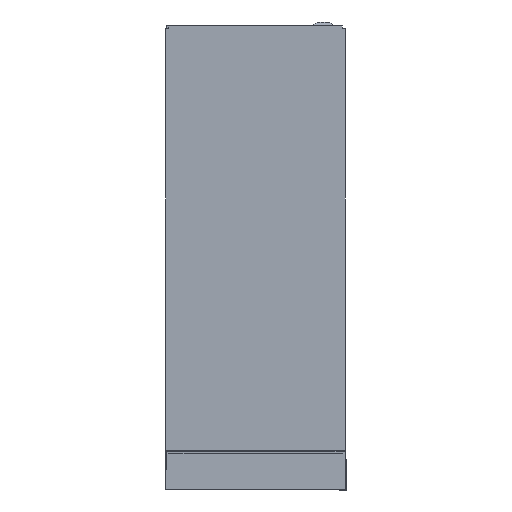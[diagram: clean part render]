
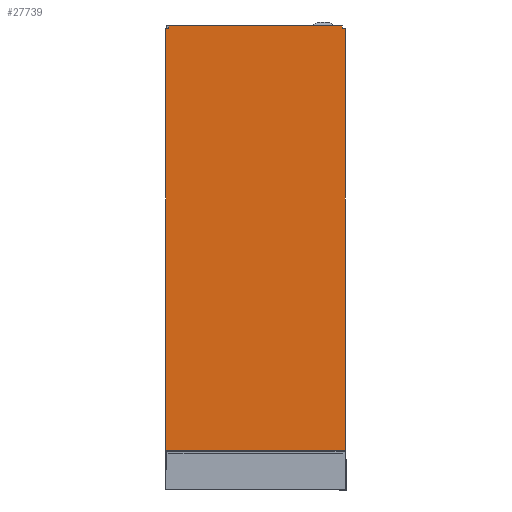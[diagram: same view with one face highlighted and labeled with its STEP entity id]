
A CAD part, left-side view. The second image highlights one B-rep face of the part: STEP entity #27739.
In plain terms, the highlighted planar face has unit normal (-1, 0, 0).
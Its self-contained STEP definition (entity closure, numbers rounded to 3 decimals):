
#27453=CARTESIAN_POINT('',(4.507,-787.007,176.06));
#27454=VERTEX_POINT('',#27453);
#27461=CARTESIAN_POINT('',(4.507,-787.007,163.06));
#27462=VERTEX_POINT('',#27461);
#27463=CARTESIAN_POINT('',(4.507,-787.007,163.06));
#27464=DIRECTION('',(0.0,0.0,1.0));
#27465=VECTOR('',#27464,13.);
#27466=LINE('',#27463,#27465);
#27467=EDGE_CURVE('',#27462,#27454,#27466,.T.);
#27483=CARTESIAN_POINT('',(4.507,-801.007,176.06));
#27484=VERTEX_POINT('',#27483);
#27501=CARTESIAN_POINT('',(4.507,-801.007,2050.06));
#27502=VERTEX_POINT('',#27501);
#27509=CARTESIAN_POINT('',(4.507,-801.007,2050.06));
#27510=DIRECTION('',(0.0,0.0,-1.0));
#27511=VECTOR('',#27510,1874.);
#27512=LINE('',#27509,#27511);
#27513=EDGE_CURVE('',#27502,#27484,#27512,.T.);
#27531=CARTESIAN_POINT('',(4.507,-801.007,176.06));
#27532=DIRECTION('',(0.0,1.0,0.0));
#27533=VECTOR('',#27532,14.0);
#27534=LINE('',#27531,#27533);
#27535=EDGE_CURVE('',#27484,#27454,#27534,.T.);
#27585=CARTESIAN_POINT('',(4.507,-17.007,163.06));
#27586=VERTEX_POINT('',#27585);
#27587=CARTESIAN_POINT('',(4.507,-17.007,176.06));
#27588=VERTEX_POINT('',#27587);
#27589=CARTESIAN_POINT('',(4.507,-17.007,163.06));
#27590=DIRECTION('',(0.0,0.0,1.0));
#27591=VECTOR('',#27590,13.);
#27592=LINE('',#27589,#27591);
#27593=EDGE_CURVE('',#27586,#27588,#27592,.T.);
#27625=CARTESIAN_POINT('',(4.507,-3.007,176.06));
#27626=VERTEX_POINT('',#27625);
#27627=CARTESIAN_POINT('',(4.507,-3.007,2050.06));
#27628=VERTEX_POINT('',#27627);
#27629=CARTESIAN_POINT('',(4.507,-3.007,176.06));
#27630=DIRECTION('',(0.0,0.0,1.0));
#27631=VECTOR('',#27630,1874.);
#27632=LINE('',#27629,#27631);
#27633=EDGE_CURVE('',#27626,#27628,#27632,.T.);
#27666=CARTESIAN_POINT('',(4.507,-3.007,176.06));
#27667=DIRECTION('',(0.0,-1.0,0.0));
#27668=VECTOR('',#27667,14.);
#27669=LINE('',#27666,#27668);
#27670=EDGE_CURVE('',#27626,#27588,#27669,.T.);
#27682=CARTESIAN_POINT('',(4.507,-1907.625,161.06));
#27683=DIRECTION('',(-1.0,0.0,0.0));
#27684=DIRECTION('',(0.0,-1.0,0.0));
#27685=AXIS2_PLACEMENT_3D('',#27682,#27683,#27684);
#27686=PLANE('',#27685);
#27687=CARTESIAN_POINT('',(4.507,-17.007,163.06));
#27688=DIRECTION('',(0.0,-1.0,0.0));
#27689=VECTOR('',#27688,770.);
#27690=LINE('',#27687,#27689);
#27691=EDGE_CURVE('',#27586,#27462,#27690,.T.);
#27692=ORIENTED_EDGE('',*,*,#27691,.T.);
#27693=ORIENTED_EDGE('',*,*,#27467,.T.);
#27694=ORIENTED_EDGE('',*,*,#27535,.F.);
#27695=ORIENTED_EDGE('',*,*,#27513,.F.);
#27696=CARTESIAN_POINT('',(4.507,-787.007,2050.06));
#27697=VERTEX_POINT('',#27696);
#27698=CARTESIAN_POINT('',(4.507,-801.007,2050.06));
#27699=DIRECTION('',(0.0,1.0,0.0));
#27700=VECTOR('',#27699,14.0);
#27701=LINE('',#27698,#27700);
#27702=EDGE_CURVE('',#27502,#27697,#27701,.T.);
#27703=ORIENTED_EDGE('',*,*,#27702,.T.);
#27704=CARTESIAN_POINT('',(4.507,-787.007,2063.06));
#27705=VERTEX_POINT('',#27704);
#27706=CARTESIAN_POINT('',(4.507,-787.007,2063.06));
#27707=DIRECTION('',(0.0,0.0,-1.0));
#27708=VECTOR('',#27707,13.0);
#27709=LINE('',#27706,#27708);
#27710=EDGE_CURVE('',#27705,#27697,#27709,.T.);
#27711=ORIENTED_EDGE('',*,*,#27710,.F.);
#27712=CARTESIAN_POINT('',(4.507,-17.007,2063.06));
#27713=VERTEX_POINT('',#27712);
#27714=CARTESIAN_POINT('',(4.507,-17.007,2063.06));
#27715=DIRECTION('',(0.0,-1.0,0.0));
#27716=VECTOR('',#27715,770.);
#27717=LINE('',#27714,#27716);
#27718=EDGE_CURVE('',#27713,#27705,#27717,.T.);
#27719=ORIENTED_EDGE('',*,*,#27718,.F.);
#27720=CARTESIAN_POINT('',(4.507,-17.007,2050.06));
#27721=VERTEX_POINT('',#27720);
#27722=CARTESIAN_POINT('',(4.507,-17.007,2063.06));
#27723=DIRECTION('',(0.0,0.0,-1.0));
#27724=VECTOR('',#27723,13.0);
#27725=LINE('',#27722,#27724);
#27726=EDGE_CURVE('',#27713,#27721,#27725,.T.);
#27727=ORIENTED_EDGE('',*,*,#27726,.T.);
#27728=CARTESIAN_POINT('',(4.507,-3.007,2050.06));
#27729=DIRECTION('',(0.0,-1.0,0.0));
#27730=VECTOR('',#27729,14.0);
#27731=LINE('',#27728,#27730);
#27732=EDGE_CURVE('',#27628,#27721,#27731,.T.);
#27733=ORIENTED_EDGE('',*,*,#27732,.F.);
#27734=ORIENTED_EDGE('',*,*,#27633,.F.);
#27735=ORIENTED_EDGE('',*,*,#27670,.T.);
#27736=ORIENTED_EDGE('',*,*,#27593,.F.);
#27737=EDGE_LOOP('',(#27692,#27693,#27694,#27695,#27703,#27711,#27719,#27727,#27733,#27734,#27735,#27736));
#27738=FACE_OUTER_BOUND('',#27737,.T.);
#27739=ADVANCED_FACE('',(#27738),#27686,.T.);
